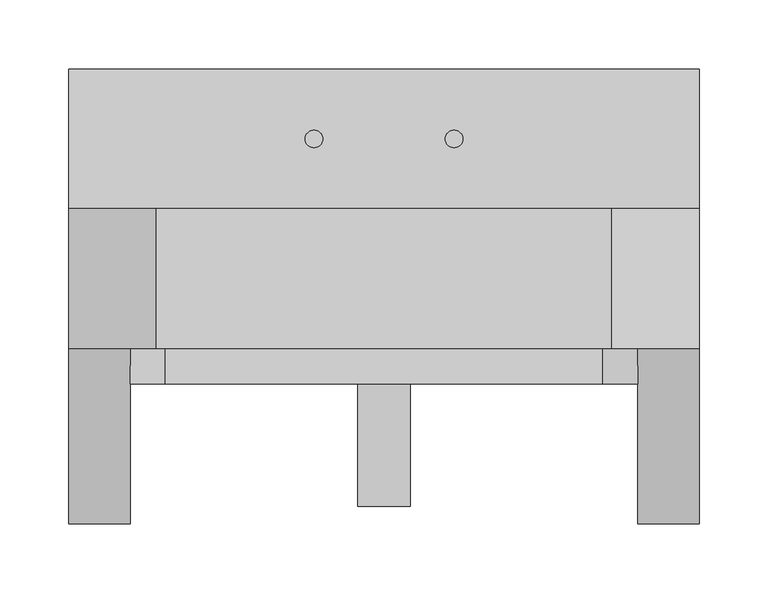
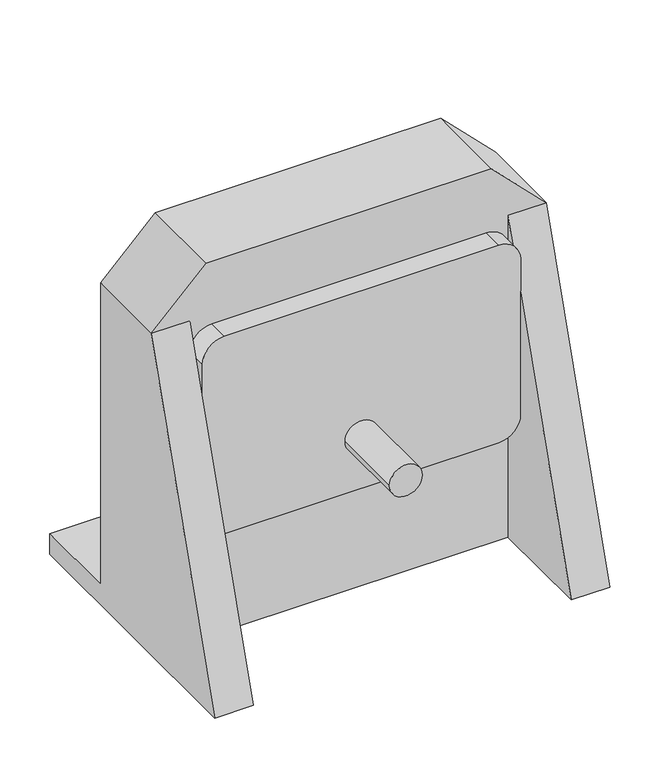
"""IFC4 building model written with IfcOpenShell, lengths in millimetres: flow terminal geometry, Lavatory_Commercial-Willoughby-ES-1015-HC : Lavatory_Commercial-Willoughby-ES-1015-HC."""

from ifc_helpers import new_model, si_unit, frame, origin, place, context, project, spatial, polyline, circle_curve, source, transform, mapped, element, save
from ifc_brep_helpers import plane_surface, cylinder_surface, revolved_surface, advanced_brep


def flow_terminal_3ae34a69(model_context):
    return source(origin(), model_context, "Body", "AdvancedBrep", [
        advanced_brep(
        [(-228.6, 101.6, 393.7), (-165.1, 101.6, 457.2), (165.1, 101.6, 457.2), (228.6, 101.6, 393.7), (228.6, 101.6, 25.4), (-228.6, 101.6, 25.4), (-184.15, 101.6, 355.6), (-184.15, 101.6, 165.1), (-158.75, 101.6, 139.7), (158.75, 101.6, 139.7), (184.15, 101.6, 165.1), (184.15, 101.6, 355.6), (158.75, 101.6, 381.0), (-158.75, 101.6, 381.0), (228.6, 0.0, 393.7), (165.1, 0.0, 457.2), (-165.1, 0.0, 457.2), (-228.6, 0.0, 393.7), (-184.15, 0.0, 393.7), (-184.15, 0.0, 355.6), (-158.75, 0.0, 381.0), (158.75, 0.0, 381.0), (184.15, 0.0, 355.6), (184.15, 0.0, 393.7), (-184.15, 0.0, 0.0), (184.15, 0.0, 0.0), (184.15, 0.0, 165.1), (158.75, 0.0, 139.7), (-158.75, 0.0, 139.7), (-184.15, 0.0, 165.1), (-228.6, 203.2, 25.4), (-228.6, 203.2, 0.0), (-228.6, -127.0, 0.0), (-184.15, -127.0, 0.0), (228.6, 203.2, 0.0), (228.6, -127.0, 0.0), (184.15, -127.0, 0.0), (228.6, 203.2, 25.4), (-158.75, 4.3110586, 381.0), (158.75, 4.3110586, 381.0), (184.15, 4.3110586, 355.6), (184.15, 4.3110586, 165.1), (158.75, 4.3110586, 139.7), (-158.75, 4.3110586, 139.7), (-184.15, 4.3110586, 165.1), (-184.15, 4.3110586, 355.6), (-184.15, -12.2903226, 355.6), (-184.15, -25.4, 165.1), (-184.15, -25.4, 314.96), (-44.45, 152.4, 25.4), (-57.15, 152.4, 25.4), (57.15, 152.4, 25.4), (44.45, 152.4, 25.4), (184.15, -12.2903226, 355.6), (184.15, -25.4, 314.96), (184.15, -25.4, 165.1), (184.15, -25.4, 355.6), (158.75, -25.4, 381.0), (-158.75, -25.4, 381.0), (-184.15, -25.4, 355.6), (-158.75, -25.4, 139.7), (158.75, -25.4, 139.7), (19.05, -25.4, 203.2), (-19.05, -25.4, 203.2), (-19.05, -114.3, 203.2), (19.05, -114.3, 203.2), (-57.15, 152.4, 31.486165), (-44.45, 152.4, 31.486165), (44.45, 152.4, 31.486165), (57.15, 152.4, 31.486165)],
        [
            (0, 1),
            (1, 2),
            (2, 3),
            (3, 4),
            (4, 5),
            (5, 0),
            (6, 7),
            (7, 8, circle_curve(frame((-158.75, 101.6, 165.1), z_axis=(0.0, -1.0, 0.0), x_axis=(-1.0, 0.0, 0.0)), 25.4)),
            (8, 9),
            (9, 10, circle_curve(frame((158.75, 101.6, 165.1), z_axis=(0.0, -1.0, 0.0), x_axis=(1.0, 0.0, 0.0)), 25.4)),
            (10, 11),
            (11, 12, circle_curve(frame((158.75, 101.6, 355.6), z_axis=(0.0, -1.0, 0.0), x_axis=(1.0, 0.0, 0.0)), 25.4)),
            (12, 13),
            (13, 6, circle_curve(frame((-158.75, 101.6, 355.6), z_axis=(0.0, -1.0, 0.0), x_axis=(-1.0, 0.0, 0.0)), 25.4)),
            (14, 15),
            (15, 16),
            (16, 17),
            (17, 18),
            (18, 19),
            (19, 20, circle_curve(frame((-158.75, 0.0, 355.6), z_axis=(0.0, 1.0, 0.0), x_axis=(-1.0, 0.0, 0.0)), 25.4)),
            (20, 21),
            (21, 22, circle_curve(frame((158.75, 0.0, 355.6), z_axis=(0.0, 1.0, 0.0), x_axis=(1.0, 0.0, 0.0)), 25.4)),
            (22, 23),
            (23, 14),
            (24, 25),
            (25, 26),
            (26, 27, circle_curve(frame((158.75, 0.0, 165.1), z_axis=(0.0, 1.0, 0.0), x_axis=(1.0, 0.0, 0.0)), 25.4)),
            (27, 28),
            (28, 29, circle_curve(frame((-158.75, 0.0, 165.1), z_axis=(0.0, 1.0, 0.0), x_axis=(-1.0, 0.0, 0.0)), 25.4)),
            (29, 24),
            (2, 15),
            (14, 3),
            (1, 16),
            (0, 17),
            (5, 30),
            (30, 31),
            (31, 32),
            (32, 17),
            (24, 33),
            (33, 32),
            (31, 34),
            (34, 35),
            (35, 36),
            (36, 25),
            (14, 35),
            (34, 37),
            (37, 4),
            (38, 39),
            (39, 40, circle_curve(frame((158.75, 4.3110586, 355.6), z_axis=(0.0, 1.0, 0.0), x_axis=(1.0, 0.0, 0.0)), 25.4)),
            (40, 41),
            (41, 42, circle_curve(frame((158.75, 4.3110586, 165.1), z_axis=(0.0, 1.0, 0.0), x_axis=(1.0, 0.0, 0.0)), 25.4)),
            (42, 43),
            (43, 44, circle_curve(frame((-158.75, 4.3110586, 165.1), z_axis=(0.0, 1.0, 0.0), x_axis=(-1.0, 0.0, 0.0)), 25.4)),
            (44, 45),
            (45, 38, circle_curve(frame((-158.75, 4.3110586, 355.6), z_axis=(0.0, 1.0, 0.0), x_axis=(-1.0, 0.0, 0.0)), 25.4)),
            (44, 7),
            (6, 45),
            (42, 9),
            (8, 43),
            (40, 11),
            (10, 41),
            (38, 13),
            (12, 39),
            (18, 46),
            (46, 19),
            (29, 47),
            (47, 48),
            (48, 33),
            (48, 46),
            (30, 37),
            (49, 50, circle_curve(frame((-50.8, 152.4, 25.4), z_axis=(0.0, 0.0, -1.0), x_axis=(1.0, 0.0, 0.0)), 6.35)),
            (50, 49, circle_curve(frame((-50.8, 152.4, 25.4), z_axis=(0.0, 0.0, -1.0), x_axis=(1.0, 0.0, 0.0)), 6.35)),
            (51, 52, circle_curve(frame((50.8, 152.4, 25.4), z_axis=(0.0, 0.0, -1.0), x_axis=(1.0, 0.0, 0.0)), 6.35)),
            (52, 51, circle_curve(frame((50.8, 152.4, 25.4), z_axis=(0.0, 0.0, -1.0), x_axis=(1.0, 0.0, 0.0)), 6.35)),
            (22, 53),
            (53, 23),
            (36, 54),
            (54, 55),
            (55, 26),
            (53, 54),
            (56, 57, circle_curve(frame((158.75, -25.4, 355.6), z_axis=(0.0, -1.0, 0.0), x_axis=(1.0, 0.0, 0.0)), 25.4)),
            (57, 58),
            (58, 59, circle_curve(frame((-158.75, -25.4, 355.6), z_axis=(0.0, -1.0, 0.0), x_axis=(-1.0, 0.0, 0.0)), 25.4)),
            (59, 48),
            (47, 60, circle_curve(frame((-158.75, -25.4, 165.1), z_axis=(0.0, -1.0, 0.0), x_axis=(-1.0, 0.0, 0.0)), 25.4)),
            (60, 61),
            (61, 55, circle_curve(frame((158.75, -25.4, 165.1), z_axis=(0.0, -1.0, 0.0), x_axis=(1.0, 0.0, 0.0)), 25.4)),
            (54, 56),
            (62, 63, circle_curve(frame((0.0, -25.4, 203.2), z_axis=(0.0, 1.0, 0.0), x_axis=(1.0, 0.0, 0.0)), 19.05)),
            (63, 62, circle_curve(frame((0.0, -25.4, 203.2), z_axis=(0.0, 1.0, 0.0), x_axis=(1.0, 0.0, 0.0)), 19.05)),
            (56, 53),
            (21, 57),
            (20, 58),
            (46, 59),
            (28, 60),
            (27, 61),
            (64, 65, circle_curve(frame((0.0, -114.3, 203.2), z_axis=(0.0, -1.0, 0.0), x_axis=(1.0, 0.0, 0.0)), 19.05)),
            (65, 64, circle_curve(frame((0.0, -114.3, 203.2), z_axis=(0.0, -1.0, 0.0), x_axis=(1.0, 0.0, 0.0)), 19.05)),
            (64, 63),
            (62, 65),
            (66, 67, circle_curve(frame((-50.8, 152.4, 31.486165), z_axis=(0.0, 0.0, 1.0), x_axis=(1.0, 0.0, 0.0)), 6.35)),
            (67, 66, circle_curve(frame((-50.8, 152.4, 31.486165), z_axis=(0.0, 0.0, 1.0), x_axis=(1.0, 0.0, 0.0)), 6.35)),
            (66, 50),
            (49, 67),
            (68, 69, circle_curve(frame((50.8, 152.4, 31.486165), z_axis=(0.0, 0.0, 1.0), x_axis=(1.0, 0.0, 0.0)), 6.35)),
            (69, 68, circle_curve(frame((50.8, 152.4, 31.486165), z_axis=(0.0, 0.0, 1.0), x_axis=(1.0, 0.0, 0.0)), 6.35)),
            (68, 52),
            (51, 69),
        ],
        [
            plane_surface(frame((228.6, 101.6, 393.7), z_axis=(0.0, 1.0, 0.0), x_axis=(0.7071067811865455, 0.0, -0.7071067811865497))),
            plane_surface(frame((228.6, 0.0, 393.7), z_axis=(0.0, -1.0, 0.0), x_axis=(-0.7071067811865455, 0.0, 0.7071067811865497))),
            plane_surface(frame((228.6, 0.0, 393.7), z_axis=(0.7071067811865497, 0.0, 0.7071067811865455), x_axis=(0.0, 1.0, 0.0))),
            plane_surface(frame((165.1, 0.0, 457.2), z_axis=(0.0, 0.0, 1.0), x_axis=(0.0, 1.0, 0.0))),
            plane_surface(frame((-165.1, 0.0, 457.2), z_axis=(-0.7071067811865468, 0.0, 0.7071067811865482), x_axis=(0.0, 1.0, 0.0))),
            plane_surface(frame((-228.6, 0.0, 393.7), z_axis=(-1.0, 0.0, 0.0), x_axis=(0.0, 1.0, 0.0))),
            plane_surface(frame((-228.6, 0.0, 0.0), z_axis=(0.0, 0.0, -1.0), x_axis=(0.0, 1.0, 0.0))),
            plane_surface(frame((228.6, 0.0, 0.0), z_axis=(1.0, 0.0, 0.0), x_axis=(0.0, 1.0, 0.0))),
            plane_surface(frame((-184.15, 4.3110586, 355.6), z_axis=(0.0, 1.0, 0.0), x_axis=(0.0, 0.0, -1.0))),
            plane_surface(frame((-184.15, 4.3110586, 355.6), z_axis=(1.0, 0.0, 0.0), x_axis=(0.0, 1.0, 0.0))),
            plane_surface(frame((-158.75, 4.3110586, 139.7), z_axis=(0.0, 0.0, 1.0), x_axis=(0.0, 1.0, 0.0))),
            plane_surface(frame((184.15, 4.3110586, 165.1), z_axis=(-1.0, 0.0, 0.0), x_axis=(0.0, 1.0, 0.0))),
            plane_surface(frame((158.75, 4.3110586, 381.0), z_axis=(0.0, 0.0, -1.0), x_axis=(0.0, 1.0, 0.0))),
            revolved_surface(polyline([(-184.15, 4.3110585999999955, 355.6), (-184.15, 101.6, 355.6)]), (-158.75, 101.6, 355.6), (0.0, -1.0, 0.0)),
            revolved_surface(polyline([(-184.15, 4.3110585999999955, 165.1), (-184.15, 101.6, 165.1)]), (-158.75, 101.6, 165.1), (0.0, -1.0, 0.0)),
            revolved_surface(polyline([(184.15, 4.3110585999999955, 165.1), (184.15, 101.6, 165.1)]), (158.75, 101.6, 165.1), (0.0, -1.0, 0.0)),
            revolved_surface(polyline([(184.15, 4.3110585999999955, 355.6), (184.15, 101.6, 355.6)]), (158.75, 101.6, 355.6), (0.0, -1.0, 0.0)),
            plane_surface(frame((-184.15, 203.2, 0.0), z_axis=(1.0, 0.0, 0.0), x_axis=(0.0, 1.0, 0.0))),
            plane_surface(frame((-184.15, 0.0, 393.7), z_axis=(0.0, -0.9517086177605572, 0.3070027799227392), x_axis=(-1.0, 0.0, 0.0))),
            plane_surface(frame((304.8, 203.2, 25.4), z_axis=(0.0, 1.0, 0.0), x_axis=(1.0, 0.0, 0.0))),
            plane_surface(frame((228.6, 101.6, 25.4), z_axis=(0.0, 0.0, 1.0), x_axis=(0.0, 1.0, 0.0))),
            plane_surface(frame((184.15, 203.2, 0.0), z_axis=(-1.0, 0.0, 0.0), x_axis=(0.0, -1.0, 0.0))),
            plane_surface(frame((228.6, 0.0, 393.7), z_axis=(0.0, -0.9517086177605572, 0.3070027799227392), x_axis=(-1.0, 0.0, 0.0))),
            plane_surface(frame((184.15, -25.4, 355.6), z_axis=(0.0, -1.0, 0.0), x_axis=(0.0, 0.0, 1.0))),
            cylinder_surface(frame((158.75, 0.0, 355.6), z_axis=(0.0, -1.0, 0.0), x_axis=(1.0, 0.0, 0.0)), 25.4),
            plane_surface(frame((158.75, -25.4, 381.0), z_axis=(0.0, 0.0, 1.0), x_axis=(0.0, 1.0, 0.0))),
            cylinder_surface(frame((-158.75, 0.0, 355.6), z_axis=(0.0, -1.0, 0.0), x_axis=(-1.0, 0.0, 0.0)), 25.4),
            plane_surface(frame((-184.15, -25.4, 355.6), z_axis=(-1.0, 0.0, 0.0), x_axis=(0.0, 1.0, 0.0))),
            cylinder_surface(frame((-158.75, 0.0, 165.1), z_axis=(0.0, -1.0, 0.0), x_axis=(-1.0, 0.0, 0.0)), 25.4),
            plane_surface(frame((-158.75, -25.4, 139.7), z_axis=(0.0, 0.0, -1.0), x_axis=(0.0, 1.0, 0.0))),
            cylinder_surface(frame((158.75, 0.0, 165.1), z_axis=(0.0, -1.0, 0.0), x_axis=(1.0, 0.0, 0.0)), 25.4),
            plane_surface(frame((184.15, -25.4, 165.1), z_axis=(1.0, 0.0, 0.0), x_axis=(0.0, 1.0, 0.0))),
            plane_surface(frame((19.05, -114.3, 203.2), z_axis=(0.0, -1.0, 0.0), x_axis=(0.0, 0.0, 1.0))),
            cylinder_surface(frame((0.0, -25.4, 203.2), z_axis=(0.0, -1.0, 0.0), x_axis=(1.0, 0.0, 0.0)), 19.05),
            plane_surface(frame((-44.45, 152.4, 31.486165), z_axis=(0.0, 0.0, 1.0), x_axis=(0.0, 1.0, 0.0))),
            cylinder_surface(frame((-50.8, 152.4, 0.0), z_axis=(0.0, 0.0, 1.0), x_axis=(1.0, 0.0, 0.0)), 6.35),
            plane_surface(frame((57.15, 152.4, 31.486165), z_axis=(0.0, 0.0, 1.0), x_axis=(0.0, 1.0, 0.0))),
            cylinder_surface(frame((50.8, 152.4, 0.0), z_axis=(0.0, 0.0, 1.0), x_axis=(1.0, 0.0, 0.0)), 6.35),
        ],
        [
            (0, [[1, 2, 3, 4, 5, 6], [7, 8, 9, 10, 11, 12, 13, 14]]),
            (1, [[15, 16, 17, 18, 19, 20, 21, 22, 23, 24]]),
            (1, [[25, 26, 27, 28, 29, 30]]),
            (2, [[-3, 31, -15, 32]]),
            (3, [[-2, 33, -16, -31]]),
            (4, [[-1, 34, -17, -33]]),
            (5, [[-34, -6, 35, 36, 37, 38]]),
            (6, [[39, 40, -37, 41, 42, 43, 44, -25]]),
            (7, [[-32, 45, -42, 46, 47, -4]]),
            (8, [[48, 49, 50, 51, 52, 53, 54, 55]]),
            (9, [[-54, 56, -7, 57]]),
            (10, [[-52, 58, -9, 59]]),
            (11, [[-50, 60, -11, 61]]),
            (12, [[-48, 62, -13, 63]]),
            (13, [[-55, -57, -14, -62]]),
            (14, [[-53, -59, -8, -56]]),
            (15, [[-51, -61, -10, -58]]),
            (16, [[-49, -63, -12, -60]]),
            (17, [[-19, 64, 65]]),
            (17, [[-39, -30, 66, 67, 68]]),
            (18, [[-38, -40, -68, 69, -64, -18]]),
            (19, [[-46, -41, -36, 70]]),
            (20, [[-70, -35, -5, -47], [71, 72], [73, 74]]),
            (21, [[-23, 75, 76]]),
            (21, [[-44, 77, 78, 79, -26]]),
            (22, [[-45, -24, -76, 80, -77, -43]]),
            (23, [[81, 82, 83, 84, -67, 85, 86, 87, -78, 88], [89, 90]]),
            (24, [[-81, 91, -75, -22, 92]]),
            (25, [[-82, -92, -21, 93]]),
            (26, [[-83, -93, -20, -65, 94]]),
            (27, [[-84, -94, -69]]),
            (28, [[-85, -66, -29, 95]]),
            (29, [[-86, -95, -28, 96]]),
            (30, [[-87, -96, -27, -79]]),
            (31, [[-88, -80, -91]]),
            (32, [[97, 98]]),
            (33, [[-97, 99, -89, 100]]),
            (33, [[-98, -100, -90, -99]]),
            (34, [[101, 102]]),
            (35, [[-101, 103, -71, 104]]),
            (35, [[-102, -104, -72, -103]]),
            (36, [[105, 106]]),
            (37, [[-105, 107, -73, 108]]),
            (37, [[-106, -108, -74, -107]]),
        ],
    ),
    ])


if __name__ == "__main__":
    model = new_model("IFC4")
    model_context = context("Model", 3, world=origin())
    ifc_project = project(units=[si_unit("LENGTHUNIT", "METRE", prefix="MILLI")], contexts=[model_context])
    site = spatial("IfcSite", under=ifc_project)
    building = spatial("IfcBuilding", under=site)
    placement = place(None, origin())
    flow_terminal_shape = flow_terminal_3ae34a69(model_context)
    element("IfcFlowTerminal", 1, ObjectType="Lavatory_Commercial-Willoughby-ES-1015-HC : Lavatory_Commercial-Willoughby-ES-1015-HC", at=placement, inside=building, context=model_context, shape_type="MappedRepresentation", body=[
        mapped(flow_terminal_shape, transform((0.0, 0.0, 0.0), x_axis=(1.0, 0.0, 0.0), y_axis=(0.0, 1.0, 0.0), z_axis=(0.0, 0.0, 1.0))),
    ])
    save(model, "model.ifc")
